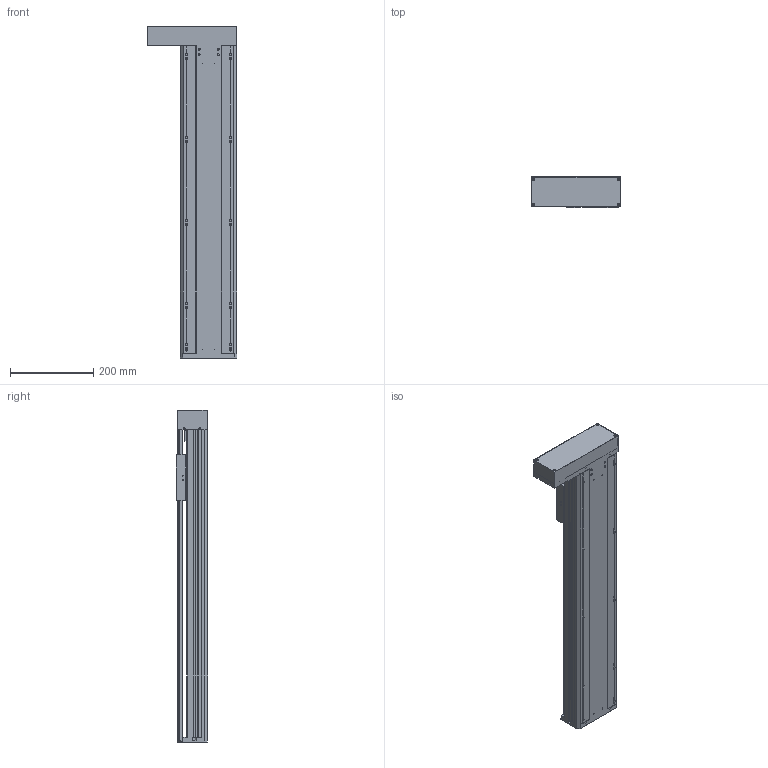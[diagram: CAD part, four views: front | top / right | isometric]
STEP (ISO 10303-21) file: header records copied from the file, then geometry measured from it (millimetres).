
FILE_DESCRIPTION(/* description */ (''),/* implementation_level */ '2;1');
FILE_NAME(/* name */ 'TKA136-FL-550_asm1.stp',/* time_stamp */ '2016-05-07T13:19:48+08:00',/* author */ (''),/* organization */ (''),/* preprocessor_version */ 'ST-DEVELOPER v15',/* originating_system */ 'SIEMENS PLM Software NX 8.5',/* authorisation */ '');
FILE_SCHEMA (('AUTOMOTIVE_DESIGN { 1 0 10303 214 3 1 1 1 }'));
Length unit declared in the file: millimetre
Products named in the file (3): 100-02; 100-01; TKA136-FL-550_asm1
Assembly tree (2 placements, depth 2):
  TKA136-FL-550_asm1
    100-01
    100-02
Bounding box: 216 x 75 x 800 mm (x, y, z)
Volume: 2529122.1 mm3; surface area: 1002886.3 mm2
Topology: 2 solids, 12 shells, 886 faces, 2496 edges, 1629 vertices
Faces by surface type: plane 421, cylinder 414, cone 51
Full cylindrical faces by diameter (mm): 2.5 x14, 3 x2, 3.3 x13, 4 x4, 4.2 x6, 4.5 x24, 5 x18, 5.5 x26, 6.6 x14, 8 x20, 10 x9, 10.5 x10, 11 x4, 11.6 x1, 12 x9, 15 x3, 16 x5, 17 x1, 24 x5, 26 x1, 28 x1, 46 x1, 50 x1
Entity records: 29616 total; most frequent: CARTESIAN_POINT 7794, DIRECTION 4518, ORIENTED_EDGE 4234, EDGE_CURVE 2117, AXIS2_PLACEMENT_3D 1707, VERTEX_POINT 1512, EDGE_LOOP 1320, LINE 1104
